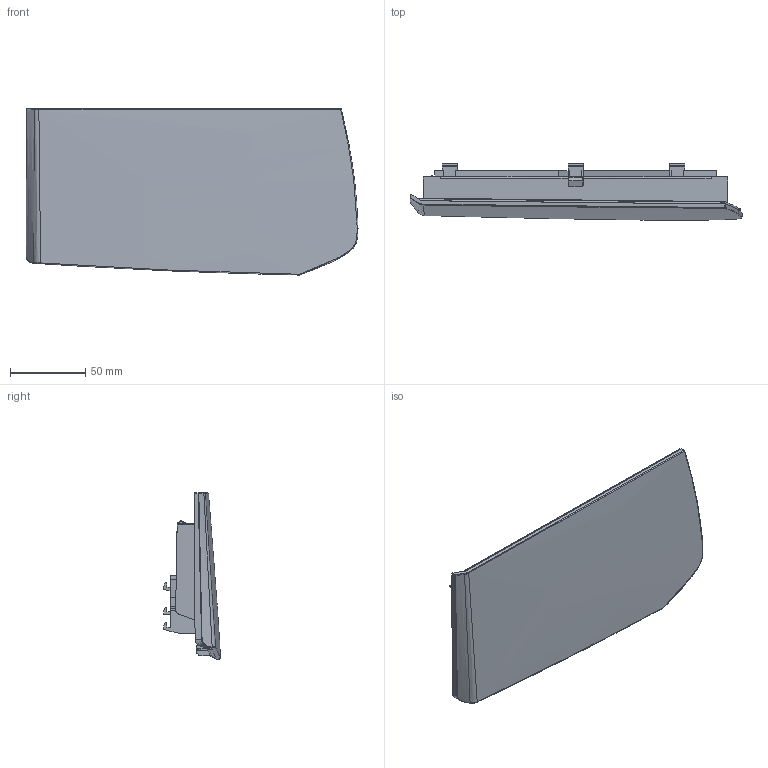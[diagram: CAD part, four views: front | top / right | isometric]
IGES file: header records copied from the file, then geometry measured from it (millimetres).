
Start section: Comment
Global section: file name: 148037200.igs; native system:  By UGS Corp.; preprocessor: XPlus GENERIC/IGES 3.0; author: Author; organization: Title; date: 20080207.144922; units: millimetre
Bounding box: 220.57 x 37.79 x 110.38 mm (x, y, z)
Surface area: 84777.9 mm2 (no closed solid volume)
Topology: 0 solids, 0 shells, 3835 faces, 23246 edges, 23237 vertices
Faces by surface type: bspline 3835
